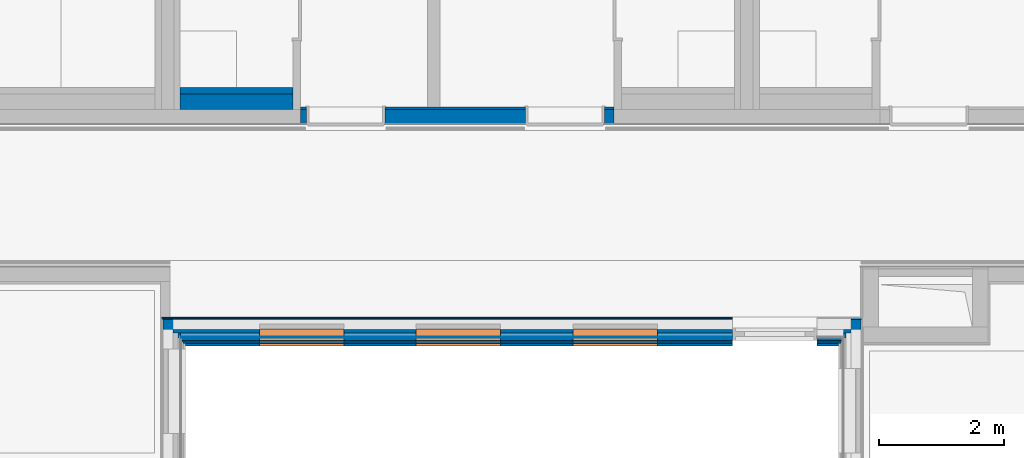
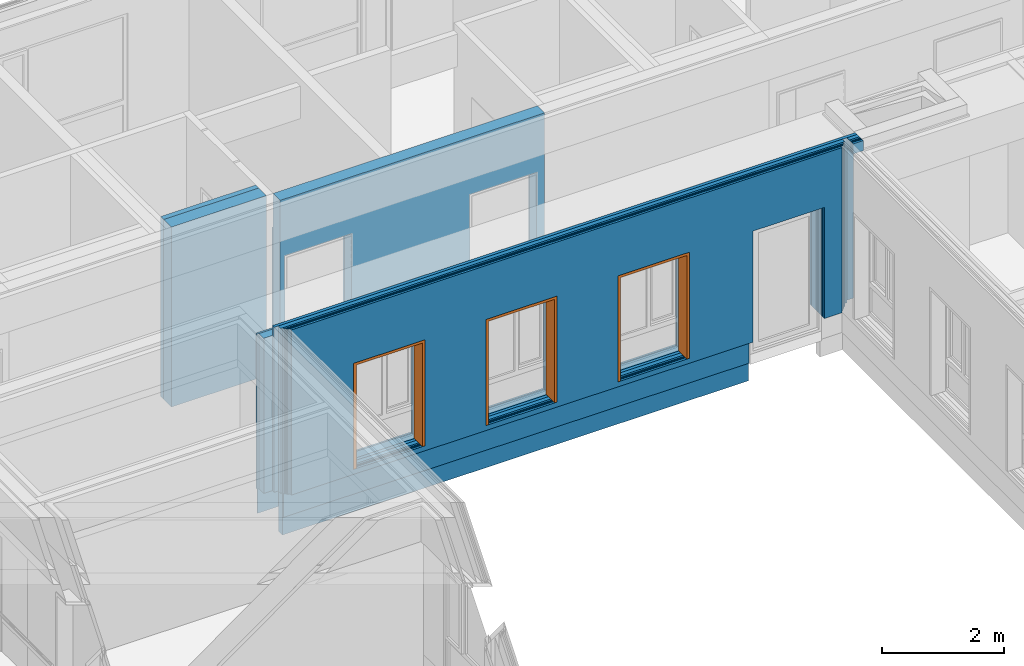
# One storey, part 19 of 207: 15 walls, 3 proxies, 36 openings.
"""IFC4 building model written with IfcOpenShell, lengths in metres."""

from ifc_helpers import new_model, entity, si_unit, converted_unit, derived_unit, frame, frame_2d, origin, origin_with_axes, place, context, subcontext, project, spatial, polyline, rectangle, outline, extrude, clip, bounded_halfspace, faceted_brep, material, element, fill, save


model = new_model("IFC4")

# Units and contexts
model_context = context("Model", 3, precision=1e-05, world=origin())
body_context = subcontext(model_context, "Body", "Model", "MODEL_VIEW")
ifc_project = project(units=[si_unit("LENGTHUNIT", "METRE"), si_unit("AREAUNIT", "SQUARE_METRE"), si_unit("VOLUMEUNIT", "CUBIC_METRE"), si_unit("MASSUNIT", "GRAM", prefix="KILO"), converted_unit("PLANEANGLEUNIT", "DEGREE", entity("IfcPlaneAngleMeasure", 0.0174532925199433), si_unit("PLANEANGLEUNIT", "RADIAN"), dimensions=[0, 0, 0, 0, 0, 0, 0]), derived_unit("THERMALTRANSMITTANCEUNIT", [(si_unit("POWERUNIT", "WATT"), 1), (si_unit("THERMODYNAMICTEMPERATUREUNIT", "KELVIN"), -1), (si_unit("LENGTHUNIT", "METRE"), -2)]), derived_unit("VOLUMETRICFLOWRATEUNIT", [(si_unit("LENGTHUNIT", "METRE"), 3), (converted_unit("TIMEUNIT", "hour", entity("IfcTimeMeasure", 3600.0), si_unit("TIMEUNIT", "SECOND"), dimensions=[0, 0, 1, 0, 0, 0, 0]), -1), (si_unit("LENGTHUNIT", "METRE"), -1)])], contexts=[model_context])

# Site, building, storey
site_placement = place(None, origin())
site = spatial("IfcSite", under=ifc_project, at=site_placement, Name="Psychiatrie Neubau Wunstorf", CompositionType="ELEMENT")
building_placement = place(site_placement, origin())
building = spatial("IfcBuilding", under=site, at=building_placement, Name="Neubau H2 Stationsgebäude", CompositionType="ELEMENT")
storey_placement = place(building_placement, frame((0.0, 0.0, -0.2)))
storey = spatial("IfcBuildingStorey", under=building, at=storey_placement, Name="H2 Ebene 0", CompositionType="ELEMENT", Elevation=-0.2)

# Wall, openings
ifc_material_1 = material(Name="WA-LB")
wall_1_placement = place(storey_placement, frame((26.861, 21.036, 0.5), z_axis=(0.0, 0.0, 1.0), x_axis=(-1.0, 0.0, 0.0)))
wall_1 = element("IfcWall", 1, at=wall_1_placement, inside=storey, material=ifc_material_1, context=body_context, shape_type="SweptSolid", body=[
    extrude(rectangle(XDim=11.222, YDim=0.036, at=frame_2d((5.611, 0.018), x_axis=(1.0, 0.0))), origin_with_axes(), (0.0, 0.0, 1.0), 3.1),
])
opening_1_placement = place(wall_1_placement, frame((4.64069999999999, 0.036, 0.1), z_axis=(0.0, -1.0, 0.0), x_axis=(0.0, 0.0, 1.0)))
element("IfcOpeningElement", 2, at=opening_1_placement, cuts=wall_1, Name="Fensteröffnung", ObjectType="Opening", context=body_context, shape_type="SweptSolid", body=[
    extrude(outline(polyline([(2.12, 1.35), (2.12, 0.0), (0.0, 0.0), (0.0, 1.35), (2.12, 1.35)])), origin_with_axes(), (0.0, 0.0, 1.0), 0.036),
])
opening_2_placement = place(wall_1_placement, frame((7.14069999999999, 0.036, 0.1), z_axis=(0.0, -1.0, 0.0), x_axis=(0.0, 0.0, 1.0)))
element("IfcOpeningElement", 3, at=opening_2_placement, cuts=wall_1, Name="Fensteröffnung", ObjectType="Opening", context=body_context, shape_type="SweptSolid", body=[
    extrude(outline(polyline([(2.12, 1.35), (2.12, 0.0), (0.0, 0.0), (0.0, 1.35), (2.12, 1.35)])), origin_with_axes(), (0.0, 0.0, 1.0), 0.036),
])
opening_3_placement = place(wall_1_placement, frame((9.64069999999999, 0.036, 0.1), z_axis=(0.0, -1.0, 0.0), x_axis=(0.0, 0.0, 1.0)))
element("IfcOpeningElement", 4, at=opening_3_placement, cuts=wall_1, Name="Fensteröffnung", ObjectType="Opening", context=body_context, shape_type="SweptSolid", body=[
    extrude(outline(polyline([(2.12, 1.35), (2.12, 0.0), (0.0, 0.0), (0.0, 1.35), (2.12, 1.35)])), origin_with_axes(), (0.0, 0.0, 1.0), 0.036),
])
opening_4_placement = place(wall_1_placement, frame((2.09083132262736, 0.036, -0.5), z_axis=(0.0, -1.0, 0.0), x_axis=(0.0, 0.0, 1.0)))
element("IfcOpeningElement", 5, at=opening_4_placement, cuts=wall_1, Name="Türöffnung", ObjectType="Opening", context=body_context, shape_type="SweptSolid", body=[
    extrude(outline(polyline([(2.72, 1.35), (2.72, 0.0), (0.0, 0.0), (0.0, 1.35), (2.72, 1.35)])), origin_with_axes(), (0.0, 0.0, 1.0), 0.036),
])

ifc_material_2 = material(Name="WA-HD")
wall_2_placement = place(storey_placement, frame((26.825, 21.0, 0.5), z_axis=(0.0, 0.0, 1.0), x_axis=(-1.0, 0.0, 0.0)))
wall_2 = element("IfcWall", 6, at=wall_2_placement, inside=storey, material=ifc_material_2, context=body_context, shape_type="SweptSolid", body=[
    extrude(rectangle(XDim=11.15, YDim=0.16, at=frame_2d((5.575, 0.08), x_axis=(1.0, 0.0))), origin_with_axes(), (0.0, 0.0, 1.0), 3.1),
])
opening_5_placement = place(wall_2_placement, frame((9.60469999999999, 0.16, 0.1), z_axis=(0.0, -1.0, 0.0), x_axis=(0.0, 0.0, 1.0)))
element("IfcOpeningElement", 7, at=opening_5_placement, cuts=wall_2, Name="Fensteröffnung", ObjectType="Opening", context=body_context, shape_type="SweptSolid", body=[
    extrude(outline(polyline([(2.12, 1.35), (2.12, 0.0), (0.0, 0.0), (0.0, 1.35), (2.12, 1.35)])), origin_with_axes(), (0.0, 0.0, 1.0), 0.16),
])
opening_6_placement = place(wall_2_placement, frame((7.10469999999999, 0.16, 0.1), z_axis=(0.0, -1.0, 0.0), x_axis=(0.0, 0.0, 1.0)))
element("IfcOpeningElement", 8, at=opening_6_placement, cuts=wall_2, Name="Fensteröffnung", ObjectType="Opening", context=body_context, shape_type="SweptSolid", body=[
    extrude(outline(polyline([(2.12, 1.35), (2.12, 0.0), (0.0, 0.0), (0.0, 1.35), (2.12, 1.35)])), origin_with_axes(), (0.0, 0.0, 1.0), 0.16),
])
opening_7_placement = place(wall_2_placement, frame((4.60469999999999, 0.16, 0.1), z_axis=(0.0, -1.0, 0.0), x_axis=(0.0, 0.0, 1.0)))
element("IfcOpeningElement", 9, at=opening_7_placement, cuts=wall_2, Name="Fensteröffnung", ObjectType="Opening", context=body_context, shape_type="SweptSolid", body=[
    extrude(outline(polyline([(2.12, 1.35), (2.12, 0.0), (0.0, 0.0), (0.0, 1.35), (2.12, 1.35)])), origin_with_axes(), (0.0, 0.0, 1.0), 0.16),
])
opening_8_placement = place(wall_2_placement, frame((2.05483132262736, 0.16, -0.5), z_axis=(0.0, -1.0, 0.0), x_axis=(0.0, 0.0, 1.0)))
element("IfcOpeningElement", 10, at=opening_8_placement, cuts=wall_2, Name="Türöffnung", ObjectType="Opening", context=body_context, shape_type="SweptSolid", body=[
    extrude(outline(polyline([(2.72, 1.35), (2.72, 0.0), (0.0, 0.0), (0.0, 1.35), (2.72, 1.35)])), origin_with_axes(), (0.0, 0.0, 1.0), 0.16),
])

ifc_material_3 = material(Name="WA-DL")
wall_3_placement = place(storey_placement, frame((26.861, 20.84, 0.5), z_axis=(0.0, 0.0, 1.0), x_axis=(-1.0, 0.0, 0.0)))
wall_3 = element("IfcWall", 11, at=wall_3_placement, inside=storey, material=ifc_material_3, context=body_context, shape_type="Clipping", body=[
    clip(extrude(rectangle(XDim=11.026, YDim=0.06, at=frame_2d((5.513, 0.03), x_axis=(1.0, 0.0))), origin_with_axes(), (0.0, 0.0, 1.0), 3.3), bounded_halfspace(frame((0.098, 0.03, 3.1), z_axis=(1.16006977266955e-15, -3.7895612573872e-15, 1.0), x_axis=(0.0, -1.0, -7.5791225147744e-15)), True, origin_with_axes(), polyline([(0.0, 0.06), (0.0, 0.0), (0.196, 0.0), (0.196, 0.06), (0.0, 0.06)]))),
])
opening_9_placement = place(wall_3_placement, frame((9.64069999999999, 0.06, 0.1), z_axis=(0.0, -1.0, 0.0), x_axis=(0.0, 0.0, 1.0)))
element("IfcOpeningElement", 12, at=opening_9_placement, cuts=wall_3, Name="Fensteröffnung", ObjectType="Opening", context=body_context, shape_type="SweptSolid", body=[
    extrude(outline(polyline([(2.12, 1.35), (2.12, 0.0), (0.0, 0.0), (0.0, 1.35), (2.12, 1.35)])), origin_with_axes(), (0.0, 0.0, 1.0), 0.06),
])
opening_10_placement = place(wall_3_placement, frame((7.14069999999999, 0.06, 0.1), z_axis=(0.0, -1.0, 0.0), x_axis=(0.0, 0.0, 1.0)))
element("IfcOpeningElement", 13, at=opening_10_placement, cuts=wall_3, Name="Fensteröffnung", ObjectType="Opening", context=body_context, shape_type="SweptSolid", body=[
    extrude(outline(polyline([(2.12, 1.35), (2.12, 0.0), (0.0, 0.0), (0.0, 1.35), (2.12, 1.35)])), origin_with_axes(), (0.0, 0.0, 1.0), 0.06),
])
opening_11_placement = place(wall_3_placement, frame((4.64069999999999, 0.06, 0.1), z_axis=(0.0, -1.0, 0.0), x_axis=(0.0, 0.0, 1.0)))
element("IfcOpeningElement", 14, at=opening_11_placement, cuts=wall_3, Name="Fensteröffnung", ObjectType="Opening", context=body_context, shape_type="SweptSolid", body=[
    extrude(outline(polyline([(2.12, 1.35), (2.12, 0.0), (0.0, 0.0), (0.0, 1.35), (2.12, 1.35)])), origin_with_axes(), (0.0, 0.0, 1.0), 0.06),
])
opening_12_placement = place(wall_3_placement, frame((2.09083132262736, 0.06, -0.5), z_axis=(0.0, -1.0, 0.0), x_axis=(0.0, 0.0, 1.0)))
element("IfcOpeningElement", 15, at=opening_12_placement, cuts=wall_3, Name="Türöffnung", ObjectType="Opening", context=body_context, shape_type="SweptSolid", body=[
    extrude(outline(polyline([(2.72, 1.35), (2.72, 0.0), (0.0, 0.0), (0.0, 1.35), (2.72, 1.35)])), origin_with_axes(), (0.0, 0.0, 1.0), 0.06),
])

ifc_material_4 = material(Name="WA-DL")
wall_4_placement = place(storey_placement, frame((26.861, 20.78, 0.5), z_axis=(0.0, 0.0, 1.0), x_axis=(-1.0, 0.0, 0.0)))
wall_4 = element("IfcWall", 16, at=wall_4_placement, inside=storey, material=ifc_material_4, context=body_context, shape_type="Clipping", body=[
    clip(extrude(rectangle(XDim=10.67, YDim=0.08, at=frame_2d((5.335, 0.04), x_axis=(1.0, 0.0))), frame((0.276, 0.0, 0.0), z_axis=(0.0, 0.0, 1.0), x_axis=(1.0, 0.0, 0.0)), (0.0, 0.0, 1.0), 3.3), bounded_halfspace(frame((0.098, 0.04, 3.1), z_axis=(1.16006977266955e-15, 2.8421709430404e-15, 1.0), x_axis=(0.0, -1.0, 5.6843418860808e-15)), True, origin_with_axes(), polyline([(0.0, 0.08), (0.0, 0.0), (0.196, 0.0), (0.196, 0.08), (0.0, 0.08)]))),
    clip(extrude(rectangle(XDim=0.196, YDim=0.08, at=frame_2d((0.098, 0.04), x_axis=(1.0, 0.0))), origin_with_axes(), (0.0, 0.0, 1.0), 3.3), bounded_halfspace(frame((0.098, 0.04, 3.1), z_axis=(1.16006977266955e-15, 2.8421709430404e-15, 1.0), x_axis=(0.0, -1.0, 5.6843418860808e-15)), True, origin_with_axes(), polyline([(0.0, 0.08), (0.0, 0.0), (0.196, 0.0), (0.196, 0.08), (0.0, 0.08)]))),
])
opening_13_placement = place(wall_4_placement, frame((9.64069999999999, 0.08, 0.1), z_axis=(0.0, -1.0, 0.0), x_axis=(0.0, 0.0, 1.0)))
element("IfcOpeningElement", 17, at=opening_13_placement, cuts=wall_4, Name="Fensteröffnung", ObjectType="Opening", context=body_context, shape_type="SweptSolid", body=[
    extrude(outline(polyline([(2.12, 1.35), (2.12, 0.0), (0.0, 0.0), (0.0, 1.35), (2.12, 1.35)])), origin_with_axes(), (0.0, 0.0, 1.0), 0.08),
])
opening_14_placement = place(wall_4_placement, frame((7.14069999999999, 0.08, 0.1), z_axis=(0.0, -1.0, 0.0), x_axis=(0.0, 0.0, 1.0)))
element("IfcOpeningElement", 18, at=opening_14_placement, cuts=wall_4, Name="Fensteröffnung", ObjectType="Opening", context=body_context, shape_type="SweptSolid", body=[
    extrude(outline(polyline([(2.12, 1.35), (2.12, 0.0), (0.0, 0.0), (0.0, 1.35), (2.12, 1.35)])), origin_with_axes(), (0.0, 0.0, 1.0), 0.08),
])
opening_15_placement = place(wall_4_placement, frame((4.64069999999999, 0.08, 0.1), z_axis=(0.0, -1.0, 0.0), x_axis=(0.0, 0.0, 1.0)))
element("IfcOpeningElement", 19, at=opening_15_placement, cuts=wall_4, Name="Fensteröffnung", ObjectType="Opening", context=body_context, shape_type="SweptSolid", body=[
    extrude(outline(polyline([(2.12, 1.35), (2.12, 0.0), (0.0, 0.0), (0.0, 1.35), (2.12, 1.35)])), origin_with_axes(), (0.0, 0.0, 1.0), 0.08),
])
opening_16_placement = place(wall_4_placement, frame((2.09083132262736, 0.08, -0.5), z_axis=(0.0, -1.0, 0.0), x_axis=(0.0, 0.0, 1.0)))
element("IfcOpeningElement", 20, at=opening_16_placement, cuts=wall_4, Name="Türöffnung", ObjectType="Opening", context=body_context, shape_type="SweptSolid", body=[
    extrude(outline(polyline([(2.72, 1.35), (2.72, 0.0), (0.0, 0.0), (0.0, 1.35), (2.72, 1.35)])), origin_with_axes(), (0.0, 0.0, 1.0), 0.08),
])

ifc_material_5 = material(Name="WA-LB")
wall_5_placement = place(storey_placement, frame((26.861, 20.7, 0.5), z_axis=(0.0, 0.0, 1.0), x_axis=(-1.0, 0.0, 0.0)))
wall_5 = element("IfcWall", 21, at=wall_5_placement, inside=storey, material=ifc_material_5, context=body_context, shape_type="Clipping", body=[
    clip(extrude(rectangle(XDim=10.598, YDim=0.036, at=frame_2d((5.299, 0.018), x_axis=(1.0, 0.0))), frame((0.312, 0.0, 0.0), z_axis=(0.0, 0.0, 1.0), x_axis=(1.0, 0.0, 0.0)), (0.0, 0.0, 1.0), 3.3), bounded_halfspace(frame((0.098, 0.018, 3.1), z_axis=(1.16006977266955e-15, 6.31593542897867e-15, 1.0), x_axis=(1.0, 0.0, -2.3201395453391e-15)), True, origin_with_axes(), polyline([(0.0, 0.0), (0.196, 0.0), (0.196, 0.036), (0.0, 0.036), (0.0, 0.0)]))),
    clip(extrude(rectangle(XDim=0.196, YDim=0.036, at=frame_2d((0.098, 0.018), x_axis=(1.0, 0.0))), origin_with_axes(), (0.0, 0.0, 1.0), 3.3), bounded_halfspace(frame((0.098, 0.018, 3.1), z_axis=(1.16006977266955e-15, 6.31593542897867e-15, 1.0), x_axis=(1.0, 0.0, -2.3201395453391e-15)), True, origin_with_axes(), polyline([(0.0, 0.0), (0.196, 0.0), (0.196, 0.036), (0.0, 0.036), (0.0, 0.0)]))),
])
opening_17_placement = place(wall_5_placement, frame((9.64069999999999, 0.036, 0.1), z_axis=(0.0, -1.0, 0.0), x_axis=(0.0, 0.0, 1.0)))
element("IfcOpeningElement", 22, at=opening_17_placement, cuts=wall_5, Name="Fensteröffnung", ObjectType="Opening", context=body_context, shape_type="SweptSolid", body=[
    extrude(outline(polyline([(2.12, 1.35), (2.12, 0.0), (0.0, 0.0), (0.0, 1.35), (2.12, 1.35)])), origin_with_axes(), (0.0, 0.0, 1.0), 0.036),
])
opening_18_placement = place(wall_5_placement, frame((7.14069999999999, 0.036, 0.1), z_axis=(0.0, -1.0, 0.0), x_axis=(0.0, 0.0, 1.0)))
element("IfcOpeningElement", 23, at=opening_18_placement, cuts=wall_5, Name="Fensteröffnung", ObjectType="Opening", context=body_context, shape_type="SweptSolid", body=[
    extrude(outline(polyline([(2.12, 1.35), (2.12, 0.0), (0.0, 0.0), (0.0, 1.35), (2.12, 1.35)])), origin_with_axes(), (0.0, 0.0, 1.0), 0.036),
])
opening_19_placement = place(wall_5_placement, frame((4.64069999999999, 0.036, 0.1), z_axis=(0.0, -1.0, 0.0), x_axis=(0.0, 0.0, 1.0)))
element("IfcOpeningElement", 24, at=opening_19_placement, cuts=wall_5, Name="Fensteröffnung", ObjectType="Opening", context=body_context, shape_type="SweptSolid", body=[
    extrude(outline(polyline([(2.12, 1.35), (2.12, 0.0), (0.0, 0.0), (0.0, 1.35), (2.12, 1.35)])), origin_with_axes(), (0.0, 0.0, 1.0), 0.036),
])
opening_20_placement = place(wall_5_placement, frame((2.09083132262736, 0.036, -0.5), z_axis=(0.0, -1.0, 0.0), x_axis=(0.0, 0.0, 1.0)))
element("IfcOpeningElement", 25, at=opening_20_placement, cuts=wall_5, Name="Türöffnung", ObjectType="Opening", context=body_context, shape_type="SweptSolid", body=[
    extrude(outline(polyline([(2.72, 1.35), (2.72, 0.0), (0.0, 0.0), (0.0, 1.35), (2.72, 1.35)])), origin_with_axes(), (0.0, 0.0, 1.0), 0.036),
])

ifc_material_6 = material(Name="WA-KL")
wall_6_placement = place(storey_placement, frame((26.861, 20.664, 0.5), z_axis=(0.0, 0.0, 1.0), x_axis=(-1.0, 0.0, 0.0)))
wall_6 = element("IfcWall", 26, at=wall_6_placement, inside=storey, material=ifc_material_6, context=body_context, shape_type="Clipping", body=[
    clip(extrude(rectangle(XDim=10.55, YDim=0.024, at=frame_2d((5.275, 0.012), x_axis=(1.0, 0.0))), frame((0.336, 0.0, 0.0), z_axis=(0.0, 0.0, 1.0), x_axis=(1.0, 0.0, 0.0)), (0.0, 0.0, 1.0), 3.3), bounded_halfspace(frame((0.098, 0.012, 3.1), z_axis=(1.16006977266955e-15, 9.473903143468e-15, 1.0), x_axis=(1.0, 0.0, -2.3201395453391e-15)), True, origin_with_axes(), polyline([(0.0, 0.0), (0.196, 0.0), (0.196, 0.024), (0.0, 0.024), (0.0, 0.0)]))),
    clip(extrude(rectangle(XDim=0.196, YDim=0.024, at=frame_2d((0.098, 0.012), x_axis=(1.0, 0.0))), origin_with_axes(), (0.0, 0.0, 1.0), 3.3), bounded_halfspace(frame((0.098, 0.012, 3.1), z_axis=(1.16006977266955e-15, 9.473903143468e-15, 1.0), x_axis=(1.0, 0.0, -2.3201395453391e-15)), True, origin_with_axes(), polyline([(0.0, 0.0), (0.196, 0.0), (0.196, 0.024), (0.0, 0.024), (0.0, 0.0)]))),
])
opening_21_placement = place(wall_6_placement, frame((9.64069999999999, 0.024, 0.1), z_axis=(0.0, -1.0, 0.0), x_axis=(0.0, 0.0, 1.0)))
element("IfcOpeningElement", 27, at=opening_21_placement, cuts=wall_6, Name="Fensteröffnung", ObjectType="Opening", context=body_context, shape_type="SweptSolid", body=[
    extrude(outline(polyline([(2.12, 1.35), (2.12, 0.0), (0.0, 0.0), (0.0, 1.35), (2.12, 1.35)])), origin_with_axes(), (0.0, 0.0, 1.0), 0.024),
])
opening_22_placement = place(wall_6_placement, frame((7.14069999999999, 0.024, 0.1), z_axis=(0.0, -1.0, 0.0), x_axis=(0.0, 0.0, 1.0)))
element("IfcOpeningElement", 28, at=opening_22_placement, cuts=wall_6, Name="Fensteröffnung", ObjectType="Opening", context=body_context, shape_type="SweptSolid", body=[
    extrude(outline(polyline([(2.12, 1.35), (2.12, 0.0), (0.0, 0.0), (0.0, 1.35), (2.12, 1.35)])), origin_with_axes(), (0.0, 0.0, 1.0), 0.024),
])
opening_23_placement = place(wall_6_placement, frame((4.64069999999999, 0.024, 0.1), z_axis=(0.0, -1.0, 0.0), x_axis=(0.0, 0.0, 1.0)))
element("IfcOpeningElement", 29, at=opening_23_placement, cuts=wall_6, Name="Fensteröffnung", ObjectType="Opening", context=body_context, shape_type="SweptSolid", body=[
    extrude(outline(polyline([(2.12, 1.35), (2.12, 0.0), (0.0, 0.0), (0.0, 1.35), (2.12, 1.35)])), origin_with_axes(), (0.0, 0.0, 1.0), 0.024),
])
opening_24_placement = place(wall_6_placement, frame((2.09083132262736, 0.024, -0.5), z_axis=(0.0, -1.0, 0.0), x_axis=(0.0, 0.0, 1.0)))
element("IfcOpeningElement", 30, at=opening_24_placement, cuts=wall_6, Name="Türöffnung", ObjectType="Opening", context=body_context, shape_type="SweptSolid", body=[
    extrude(outline(polyline([(2.72, 1.35), (2.72, 0.0), (0.0, 0.0), (0.0, 1.35), (2.72, 1.35)])), origin_with_axes(), (0.0, 0.0, 1.0), 0.024),
])

ifc_material_7 = material(Name="WA-TL")
wall_7_placement = place(storey_placement, frame((26.861, 20.64, 0.5), z_axis=(0.0, 0.0, 1.0), x_axis=(-1.0, 0.0, 0.0)))
wall_7 = element("IfcWall", 31, at=wall_7_placement, inside=storey, material=ifc_material_7, context=body_context, shape_type="Clipping", body=[
    clip(extrude(rectangle(XDim=10.502, YDim=0.024, at=frame_2d((5.251, 0.012), x_axis=(1.0, 0.0))), frame((0.36, 0.0, 0.0), z_axis=(0.0, 0.0, 1.0), x_axis=(1.0, 0.0, 0.0)), (0.0, 0.0, 1.0), 3.3), bounded_halfspace(frame((0.098, 0.012, 3.1), z_axis=(1.16006977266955e-15, 9.473903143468e-15, 1.0), x_axis=(1.0, 0.0, -2.3201395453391e-15)), True, origin_with_axes(), polyline([(0.0, 0.0), (0.196, 0.0), (0.196, 0.024), (0.0, 0.024), (0.0, 0.0)]))),
    clip(extrude(rectangle(XDim=0.196, YDim=0.024, at=frame_2d((0.098, 0.012), x_axis=(1.0, 0.0))), origin_with_axes(), (0.0, 0.0, 1.0), 3.3), bounded_halfspace(frame((0.098, 0.012, 3.1), z_axis=(1.16006977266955e-15, 9.473903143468e-15, 1.0), x_axis=(1.0, 0.0, -2.3201395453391e-15)), True, origin_with_axes(), polyline([(0.0, 0.0), (0.196, 0.0), (0.196, 0.024), (0.0, 0.024), (0.0, 0.0)]))),
])
opening_25_placement = place(wall_7_placement, frame((9.64069999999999, 0.024, 0.1), z_axis=(0.0, -1.0, 0.0), x_axis=(0.0, 0.0, 1.0)))
element("IfcOpeningElement", 32, at=opening_25_placement, cuts=wall_7, Name="Fensteröffnung", ObjectType="Opening", context=body_context, shape_type="SweptSolid", body=[
    extrude(outline(polyline([(2.12, 1.35), (2.12, 0.0), (0.0, 0.0), (0.0, 1.35), (2.12, 1.35)])), origin_with_axes(), (0.0, 0.0, 1.0), 0.024),
])
opening_26_placement = place(wall_7_placement, frame((7.14069999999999, 0.024, 0.1), z_axis=(0.0, -1.0, 0.0), x_axis=(0.0, 0.0, 1.0)))
element("IfcOpeningElement", 33, at=opening_26_placement, cuts=wall_7, Name="Fensteröffnung", ObjectType="Opening", context=body_context, shape_type="SweptSolid", body=[
    extrude(outline(polyline([(2.12, 1.35), (2.12, 0.0), (0.0, 0.0), (0.0, 1.35), (2.12, 1.35)])), origin_with_axes(), (0.0, 0.0, 1.0), 0.024),
])
opening_27_placement = place(wall_7_placement, frame((4.64069999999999, 0.024, 0.1), z_axis=(0.0, -1.0, 0.0), x_axis=(0.0, 0.0, 1.0)))
element("IfcOpeningElement", 34, at=opening_27_placement, cuts=wall_7, Name="Fensteröffnung", ObjectType="Opening", context=body_context, shape_type="SweptSolid", body=[
    extrude(outline(polyline([(2.12, 1.35), (2.12, 0.0), (0.0, 0.0), (0.0, 1.35), (2.12, 1.35)])), origin_with_axes(), (0.0, 0.0, 1.0), 0.024),
])
opening_28_placement = place(wall_7_placement, frame((2.09083132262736, 0.024, -0.5), z_axis=(0.0, -1.0, 0.0), x_axis=(0.0, 0.0, 1.0)))
element("IfcOpeningElement", 35, at=opening_28_placement, cuts=wall_7, Name="Türöffnung", ObjectType="Opening", context=body_context, shape_type="SweptSolid", body=[
    extrude(outline(polyline([(2.72, 1.35), (2.72, 0.0), (0.0, 0.0), (0.0, 1.35), (2.72, 1.35)])), origin_with_axes(), (0.0, 0.0, 1.0), 0.024),
])

# Wall, openings, proxies
ifc_material_8 = material(Name="WA-HS")
wall_8_placement = place(storey_placement, frame((26.861, 20.616, 0.5), z_axis=(0.0, 0.0, 1.0), x_axis=(-1.0, 0.0, 0.0)))
wall_8 = element("IfcWall", 36, at=wall_8_placement, inside=storey, material=ifc_material_8, context=body_context, shape_type="Clipping", body=[
    clip(extrude(rectangle(XDim=10.418, YDim=0.042, at=frame_2d((5.209, 0.021), x_axis=(1.0, 0.0))), frame((0.402, 0.0, 0.0), z_axis=(0.0, 0.0, 1.0), x_axis=(1.0, 0.0, 0.0)), (0.0, 0.0, 1.0), 3.3), bounded_halfspace(frame((0.098, 0.021, 3.1), z_axis=(1.16006977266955e-15, 5.41365893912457e-15, 1.0), x_axis=(0.0, -1.0, 1.08273178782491e-14)), True, origin_with_axes(), polyline([(0.0, 0.042), (0.0, 0.0), (0.196, 0.0), (0.196, 0.042), (0.0, 0.042)]))),
    clip(extrude(rectangle(XDim=0.196, YDim=0.042, at=frame_2d((0.098, 0.021), x_axis=(1.0, 0.0))), origin_with_axes(), (0.0, 0.0, 1.0), 3.3), bounded_halfspace(frame((0.098, 0.021, 3.1), z_axis=(1.16006977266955e-15, 5.41365893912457e-15, 1.0), x_axis=(0.0, -1.0, 1.08273178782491e-14)), True, origin_with_axes(), polyline([(0.0, 0.042), (0.0, 0.0), (0.196, 0.0), (0.196, 0.042), (0.0, 0.042)]))),
])
opening_29_placement = place(wall_8_placement, frame((9.64069999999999, 0.042, 0.1), z_axis=(0.0, -1.0, 0.0), x_axis=(0.0, 0.0, 1.0)))
opening_29 = element("IfcOpeningElement", 37, at=opening_29_placement, cuts=wall_8, Name="Fensteröffnung", ObjectType="Opening", context=body_context, shape_type="SweptSolid", body=[
    extrude(outline(polyline([(2.12, 1.35), (2.12, 0.0), (0.0, 0.0), (0.0, 1.35), (2.12, 1.35)])), origin_with_axes(), (0.0, 0.0, 1.0), 0.042),
])
opening_30_placement = place(wall_8_placement, frame((7.14069999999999, 0.042, 0.1), z_axis=(0.0, -1.0, 0.0), x_axis=(0.0, 0.0, 1.0)))
opening_30 = element("IfcOpeningElement", 38, at=opening_30_placement, cuts=wall_8, Name="Fensteröffnung", ObjectType="Opening", context=body_context, shape_type="SweptSolid", body=[
    extrude(outline(polyline([(2.12, 1.35), (2.12, 0.0), (0.0, 0.0), (0.0, 1.35), (2.12, 1.35)])), origin_with_axes(), (0.0, 0.0, 1.0), 0.042),
])
opening_31_placement = place(wall_8_placement, frame((4.64069999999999, 0.042, 0.1), z_axis=(0.0, -1.0, 0.0), x_axis=(0.0, 0.0, 1.0)))
opening_31 = element("IfcOpeningElement", 39, at=opening_31_placement, cuts=wall_8, Name="Fensteröffnung", ObjectType="Opening", context=body_context, shape_type="SweptSolid", body=[
    extrude(outline(polyline([(2.12, 1.35), (2.12, 0.0), (0.0, 0.0), (0.0, 1.35), (2.12, 1.35)])), origin_with_axes(), (0.0, 0.0, 1.0), 0.042),
])
opening_32_placement = place(wall_8_placement, frame((2.09083132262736, 0.042, -0.5), z_axis=(0.0, -1.0, 0.0), x_axis=(0.0, 0.0, 1.0)))
element("IfcOpeningElement", 40, at=opening_32_placement, cuts=wall_8, Name="Türöffnung", ObjectType="Opening", context=body_context, shape_type="SweptSolid", body=[
    extrude(outline(polyline([(2.72, 1.35), (2.72, 0.0), (0.0, 0.0), (0.0, 1.35), (2.72, 1.35)])), origin_with_axes(), (0.0, 0.0, 1.0), 0.042),
])
ifc_material_9 = material(Name="WA-HS")
proxy_1_placement = place(opening_29_placement, origin())
proxy_1 = element("IfcBuildingElementProxy", 41, at=proxy_1_placement, inside=storey, material=ifc_material_9, context=body_context, shape_type="Brep", body=[
    faceted_brep([(0.0, 0.0, 0.0), (0.0, 0.0, 0.275), (2.12, 0.0, 0.275), (2.12, 0.0, 0.0), (0.0, 0.05, 0.275), (0.0, 0.05, 0.0), (2.07, 0.05, 0.0), (2.07, 0.05, 0.275), (2.12, 1.35, 0.275), (2.12, 1.35, 0.0), (0.0, 1.35, 0.0), (0.0, 1.3, 0.0), (2.07, 1.3, 0.0), (2.07, 1.3, 0.275), (0.0, 1.3, 0.275), (0.0, 1.35, 0.275)], [[[0, 1, 2, 3]], [[4, 5, 6, 7]], [[0, 5, 4, 1]], [[3, 2, 8, 9]], [[6, 5, 0, 3, 9, 10, 11, 12]], [[13, 14, 15, 8, 2, 1, 4, 7]], [[7, 6, 12, 13]], [[11, 14, 13, 12]], [[15, 10, 9, 8]], [[11, 10, 15, 14]]], orient=[[False], [False], [False], [False], [False], [False], [False], [False], [False], [False]]),
])
fill(opening_29, proxy_1)
ifc_material_10 = material(Name="WA-HS")
proxy_2_placement = place(opening_30_placement, origin())
proxy_2 = element("IfcBuildingElementProxy", 42, at=proxy_2_placement, inside=storey, material=ifc_material_10, context=body_context, shape_type="Brep", body=[
    faceted_brep([(0.0, 0.0, 0.0), (0.0, 0.0, 0.275), (2.12, 0.0, 0.275), (2.12, 0.0, 0.0), (0.0, 0.05, 0.275), (0.0, 0.05, 0.0), (2.07, 0.05, 0.0), (2.07, 0.05, 0.275), (2.12, 1.35, 0.275), (2.12, 1.35, 0.0), (0.0, 1.35, 0.0), (0.0, 1.3, 0.0), (2.07, 1.3, 0.0), (2.07, 1.3, 0.275), (0.0, 1.3, 0.275), (0.0, 1.35, 0.275)], [[[0, 1, 2, 3]], [[4, 5, 6, 7]], [[0, 5, 4, 1]], [[3, 2, 8, 9]], [[6, 5, 0, 3, 9, 10, 11, 12]], [[13, 14, 15, 8, 2, 1, 4, 7]], [[7, 6, 12, 13]], [[11, 14, 13, 12]], [[15, 10, 9, 8]], [[11, 10, 15, 14]]], orient=[[False], [False], [False], [False], [False], [False], [False], [False], [False], [False]]),
])
fill(opening_30, proxy_2)
ifc_material_11 = material(Name="WA-HS")
proxy_3_placement = place(opening_31_placement, origin())
proxy_3 = element("IfcBuildingElementProxy", 43, at=proxy_3_placement, inside=storey, material=ifc_material_11, context=body_context, shape_type="Brep", body=[
    faceted_brep([(0.0, 0.0, 0.0), (0.0, 0.0, 0.275), (2.12, 0.0, 0.275), (2.12, 0.0, 0.0), (0.0, 0.05, 0.275), (0.0, 0.05, 0.0), (2.07, 0.05, 0.0), (2.07, 0.05, 0.275), (2.12, 1.35, 0.275), (2.12, 1.35, 0.0), (0.0, 1.35, 0.0), (0.0, 1.3, 0.0), (2.07, 1.3, 0.0), (2.07, 1.3, 0.275), (0.0, 1.3, 0.275), (0.0, 1.35, 0.275)], [[[0, 1, 2, 3]], [[4, 5, 6, 7]], [[0, 5, 4, 1]], [[3, 2, 8, 9]], [[6, 5, 0, 3, 9, 10, 11, 12]], [[13, 14, 15, 8, 2, 1, 4, 7]], [[7, 6, 12, 13]], [[11, 14, 13, 12]], [[15, 10, 9, 8]], [[11, 10, 15, 14]]], orient=[[False], [False], [False], [False], [False], [False], [False], [False], [False], [False]]),
])
fill(opening_31, proxy_3)

# Walls
ifc_material_12 = material(Name="WA-LB")
wall_9_placement = place(storey_placement, frame((24.7701640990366, 21.036, 0.0), z_axis=(0.0, 0.0, 1.0), x_axis=(-1.0, 0.0, 0.0)))
element("IfcWall", 44, at=wall_9_placement, inside=storey, material=ifc_material_12, context=body_context, shape_type="SweptSolid", body=[
    extrude(rectangle(XDim=9.11016409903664, YDim=0.021, at=frame_2d((4.55508204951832, 0.0105), x_axis=(1.0, 0.0))), origin_with_axes(), (0.0, 0.0, 1.0), 0.5),
])
ifc_material_13 = material(Name="WA-DE")
wall_10_placement = place(storey_placement, frame((24.7701640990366, 20.84, -0.36), z_axis=(0.0, 0.0, 1.0), x_axis=(-1.0, 0.0, 0.0)))
element("IfcWall", 45, at=wall_10_placement, inside=storey, material=ifc_material_13, context=body_context, shape_type="SweptSolid", body=[
    extrude(rectangle(XDim=8.81516409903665, YDim=0.12, at=frame_2d((4.40758204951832, 0.06), x_axis=(1.0, 0.0))), origin_with_axes(), (0.0, 0.0, 1.0), 0.86),
])
ifc_material_14 = material(Name="WA-LB")
wall_11_placement = place(storey_placement, frame((24.7701640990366, 20.72, 0.0), z_axis=(0.0, 0.0, 1.0), x_axis=(-1.0, 0.0, 0.0)))
element("IfcWall", 46, at=wall_11_placement, inside=storey, material=ifc_material_14, context=body_context, shape_type="SweptSolid", body=[
    extrude(rectangle(XDim=8.80016409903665, YDim=0.015, at=frame_2d((4.40008204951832, 0.0075), x_axis=(1.0, 0.0))), origin_with_axes(), (0.0, 0.0, 1.0), 0.5),
])

# Wall, openings
ifc_material_15 = material(Name="WI-HW 60")
wall_12_placement = place(storey_placement, frame((17.875, 24.1175, 0.0), z_axis=(0.0, 0.0, 1.0), x_axis=(1.0, 2.91038304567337e-15, 0.0)))
wall_12 = element("IfcWall", 47, at=wall_12_placement, inside=storey, material=ifc_material_15, context=body_context, shape_type="SweptSolid", body=[
    extrude(rectangle(XDim=5.0, YDim=0.232, at=frame_2d((2.5, 0.116), x_axis=(1.0, 0.0))), origin_with_axes(), (0.0, 0.0, 1.0), 3.6),
])
opening_33_placement = place(wall_12_placement, frame((0.09, 0.0, 0.0), z_axis=(2.940176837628e-15, 1.0, 0.0), x_axis=(0.0, 0.0, 1.0)))
element("IfcOpeningElement", 48, at=opening_33_placement, cuts=wall_12, Name="Türöffnung", ObjectType="Opening", context=body_context, shape_type="SweptSolid", body=[
    extrude(outline(polyline([(2.46, 1.26), (2.46, 0.0), (0.0, 0.0), (0.0, 1.26), (2.46, 1.26)])), origin_with_axes(), (0.0, 0.0, 1.0), 0.232),
])
opening_34_placement = place(wall_12_placement, frame((3.59, 0.0, 0.0), z_axis=(1.960117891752e-15, 1.0, 0.0), x_axis=(0.0, 0.0, 1.0)))
element("IfcOpeningElement", 49, at=opening_34_placement, cuts=wall_12, Name="Türöffnung", ObjectType="Opening", context=body_context, shape_type="SweptSolid", body=[
    extrude(outline(polyline([(2.46, 1.26), (2.46, 0.0), (0.0, 0.0), (0.0, 1.26), (2.46, 1.26)])), origin_with_axes(), (0.0, 0.0, 1.0), 0.232),
])

ifc_material_16 = material(Name="WI-LB")
wall_13_placement = place(storey_placement, frame((17.875, 24.3495, 0.0), z_axis=(0.0, 0.0, 1.0), x_axis=(1.0, 2.91038304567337e-15, 0.0)))
wall_13 = element("IfcWall", 50, at=wall_13_placement, inside=storey, material=ifc_material_16, context=body_context, shape_type="SweptSolid", body=[
    extrude(rectangle(XDim=5.0, YDim=0.04, at=frame_2d((2.5, 0.02), x_axis=(1.0, 0.0))), origin_with_axes(), (0.0, 0.0, 1.0), 2.9),
])
opening_35_placement = place(wall_13_placement, frame((3.59, 0.0, 0.0), z_axis=(0.0, 1.0, 0.0), x_axis=(0.0, 0.0, 1.0)))
element("IfcOpeningElement", 51, at=opening_35_placement, cuts=wall_13, Name="Türöffnung", ObjectType="Opening", context=body_context, shape_type="SweptSolid", body=[
    extrude(outline(polyline([(2.46, 1.26), (2.46, 0.0), (0.0, 0.0), (0.0, 1.26), (2.46, 1.26)])), origin_with_axes(), (0.0, 0.0, 1.0), 0.04),
])
opening_36_placement = place(wall_13_placement, frame((0.09, 0.0, 0.0), z_axis=(2.8421709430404e-15, 1.0, 0.0), x_axis=(0.0, 0.0, 1.0)))
element("IfcOpeningElement", 52, at=opening_36_placement, cuts=wall_13, Name="Türöffnung", ObjectType="Opening", context=body_context, shape_type="SweptSolid", body=[
    extrude(outline(polyline([(2.46, 1.26), (2.46, 0.0), (0.0, 0.0), (0.0, 1.26), (2.46, 1.26)])), origin_with_axes(), (0.0, 0.0, 1.0), 0.04),
])

# Walls
ifc_material_17 = material(Name="WI-IW")
wall_14_placement = place(storey_placement, frame((17.75, 24.6995, 0.0), z_axis=(0.0, 0.0, 1.0), x_axis=(-1.0, 0.0, 0.0)))
element("IfcWall", 53, at=wall_14_placement, inside=storey, material=ifc_material_17, context=body_context, shape_type="SweptSolid", body=[
    extrude(rectangle(XDim=1.8, YDim=0.1, at=frame_2d((0.9, 0.05), x_axis=(1.0, 0.0))), origin_with_axes(), (0.0, 0.0, 1.0), 3.6),
])
ifc_material_18 = material(Name="Installationsraum")
wall_15_placement = place(storey_placement, frame((17.75, 24.5995, 0.0), z_axis=(0.0, 0.0, 1.0), x_axis=(-1.0, 0.0, 0.0)))
element("IfcWall", 54, at=wall_15_placement, inside=storey, material=ifc_material_18, context=body_context, shape_type="SweptSolid", body=[
    extrude(rectangle(XDim=1.8, YDim=0.25, at=frame_2d((0.9, 0.125), x_axis=(1.0, 0.0))), origin_with_axes(), (0.0, 0.0, 1.0), 3.6),
])

save(model, "model.ifc")
